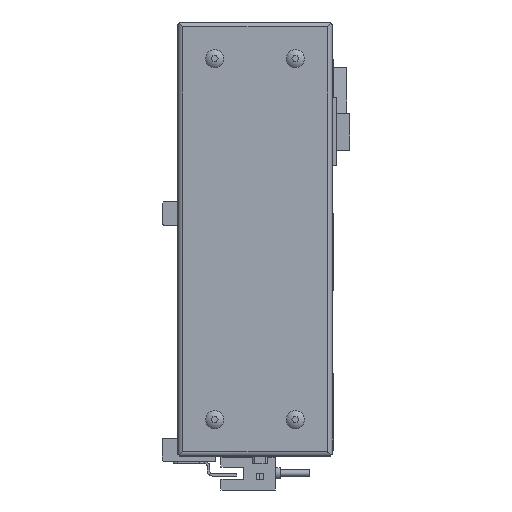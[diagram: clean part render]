
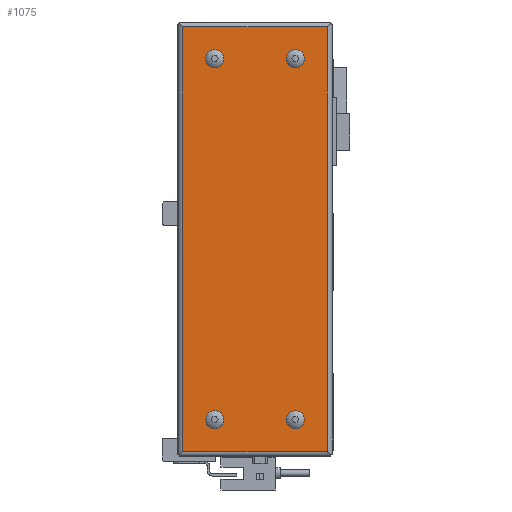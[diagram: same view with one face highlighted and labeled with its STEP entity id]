
A CAD part, left-side view. The second image highlights one B-rep face of the part: STEP entity #1075.
In plain terms, the highlighted planar face has unit normal (-1, 0, 0).
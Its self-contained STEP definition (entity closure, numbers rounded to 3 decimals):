
#1075 = ADVANCED_FACE( '', ( #2655, #2656, #2657, #2658, #2659 ), #2660, .F. );
#2655 = FACE_BOUND( '', #4936, .T. );
#2656 = FACE_BOUND( '', #4937, .T. );
#2657 = FACE_BOUND( '', #4938, .T. );
#2658 = FACE_BOUND( '', #4939, .T. );
#2659 = FACE_OUTER_BOUND( '', #4940, .T. );
#2660 = PLANE( '', #4941 );
#4936 = EDGE_LOOP( '', ( #7747 ) );
#4937 = EDGE_LOOP( '', ( #7748 ) );
#4938 = EDGE_LOOP( '', ( #7749 ) );
#4939 = EDGE_LOOP( '', ( #7750 ) );
#4940 = EDGE_LOOP( '', ( #7751, #7752, #7753, #7754 ) );
#4941 = AXIS2_PLACEMENT_3D( '', #7755, #7756, #7757 );
#7747 = ORIENTED_EDGE( '', *, *, #13743, .F. );
#7748 = ORIENTED_EDGE( '', *, *, #13744, .F. );
#7749 = ORIENTED_EDGE( '', *, *, #13745, .F. );
#7750 = ORIENTED_EDGE( '', *, *, #13222, .F. );
#7751 = ORIENTED_EDGE( '', *, *, #13746, .F. );
#7752 = ORIENTED_EDGE( '', *, *, #13747, .F. );
#7753 = ORIENTED_EDGE( '', *, *, #13214, .T. );
#7754 = ORIENTED_EDGE( '', *, *, #13748, .T. );
#7755 = CARTESIAN_POINT( '', ( -52., 0., 0. ) );
#7756 = DIRECTION( '', ( 1., 0., 0. ) );
#7757 = DIRECTION( '', ( 0., 0., -1. ) );
#13214 = EDGE_CURVE( '', #15679, #15680, #15681, .T. );
#13222 = EDGE_CURVE( '', #15694, #15694, #15695, .F. );
#13743 = EDGE_CURVE( '', #16613, #16613, #16614, .F. );
#13744 = EDGE_CURVE( '', #16615, #16615, #16616, .F. );
#13745 = EDGE_CURVE( '', #16617, #16617, #16618, .F. );
#13746 = EDGE_CURVE( '', #16619, #16620, #16621, .T. );
#13747 = EDGE_CURVE( '', #15679, #16619, #16622, .T. );
#13748 = EDGE_CURVE( '', #15680, #16620, #16623, .T. );
#15679 = VERTEX_POINT( '', #19355 );
#15680 = VERTEX_POINT( '', #19356 );
#15681 = LINE( '', #19357, #19358 );
#15694 = VERTEX_POINT( '', #19372 );
#15695 = CIRCLE( '', #19373, 3.7 );
#16613 = VERTEX_POINT( '', #20868 );
#16614 = CIRCLE( '', #20869, 3.7 );
#16615 = VERTEX_POINT( '', #20870 );
#16616 = CIRCLE( '', #20871, 3.7 );
#16617 = VERTEX_POINT( '', #20872 );
#16618 = CIRCLE( '', #20873, 3.7 );
#16619 = VERTEX_POINT( '', #20874 );
#16620 = VERTEX_POINT( '', #20875 );
#16621 = LINE( '', #20876, #20877 );
#16622 = LINE( '', #20878, #20879 );
#16623 = LINE( '', #20880, #20881 );
#19355 = CARTESIAN_POINT( '', ( -52., 61.5, 124.5 ) );
#19356 = CARTESIAN_POINT( '', ( -52., 61.5, -49. ) );
#19357 = CARTESIAN_POINT( '', ( -52., 61.5, 177.5 ) );
#19358 = VECTOR( '', #24798, 1000. );
#19372 = CARTESIAN_POINT( '', ( -52., 48.5, -39.7 ) );
#19373 = AXIS2_PLACEMENT_3D( '', #24815, #24816, #24817 );
#20868 = CARTESIAN_POINT( '', ( -52., 15.5, 107.8 ) );
#20869 = AXIS2_PLACEMENT_3D( '', #25389, #25390, #25391 );
#20870 = CARTESIAN_POINT( '', ( -52., 15.5, -39.7 ) );
#20871 = AXIS2_PLACEMENT_3D( '', #25392, #25393, #25394 );
#20872 = CARTESIAN_POINT( '', ( -52., 48.5, 107.8 ) );
#20873 = AXIS2_PLACEMENT_3D( '', #25395, #25396, #25397 );
#20874 = CARTESIAN_POINT( '', ( -52., 2.5, 124.5 ) );
#20875 = CARTESIAN_POINT( '', ( -52., 2.5, -49. ) );
#20876 = CARTESIAN_POINT( '', ( -52., 2.5, 177.5 ) );
#20877 = VECTOR( '', #25398, 1000. );
#20878 = CARTESIAN_POINT( '', ( -52., 177.5, 124.5 ) );
#20879 = VECTOR( '', #25399, 1000. );
#20880 = CARTESIAN_POINT( '', ( -52., 177.5, -49. ) );
#20881 = VECTOR( '', #25400, 1000. );
#24798 = DIRECTION( '', ( 0., 0., -1. ) );
#24815 = CARTESIAN_POINT( '', ( -52., 48.5, -36. ) );
#24816 = DIRECTION( '', ( 1., 0., 0. ) );
#24817 = DIRECTION( '', ( 0., 0., -1. ) );
#25389 = CARTESIAN_POINT( '', ( -52., 15.5, 111.5 ) );
#25390 = DIRECTION( '', ( 1., 0., 0. ) );
#25391 = DIRECTION( '', ( 0., 0., -1. ) );
#25392 = CARTESIAN_POINT( '', ( -52., 15.5, -36. ) );
#25393 = DIRECTION( '', ( 1., 0., 0. ) );
#25394 = DIRECTION( '', ( 0., 0., -1. ) );
#25395 = CARTESIAN_POINT( '', ( -52., 48.5, 111.5 ) );
#25396 = DIRECTION( '', ( 1., 0., 0. ) );
#25397 = DIRECTION( '', ( 0., 0., -1. ) );
#25398 = DIRECTION( '', ( 0., 0., -1. ) );
#25399 = DIRECTION( '', ( 0., -1., 0. ) );
#25400 = DIRECTION( '', ( 0., -1., 0. ) );
